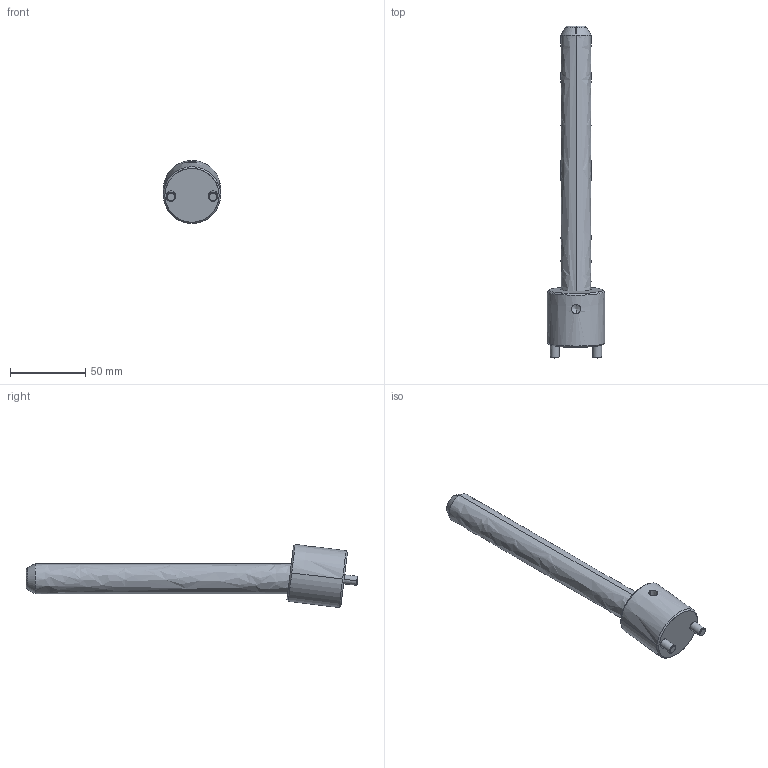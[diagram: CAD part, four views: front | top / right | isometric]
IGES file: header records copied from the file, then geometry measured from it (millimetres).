
Start section: START RECORD GO HERE.
Global section: file name: CI0720175.igs; native system: DASSAULT SYSTEMES CATIA V5 R20 - www.3ds.com; preprocessor: CATIA Version 5 Release 20 ; author: r.borello; organization: CFTORINO; date: 20190624.090936; units: millimetre
Bounding box: 38 x 220.46 x 41.86 mm (x, y, z)
Surface area: 22179 mm2 (no closed solid volume)
Topology: 0 solids, 0 shells, 39 faces, 162 edges, 160 vertices
Faces by surface type: revolution 32, plane 7
